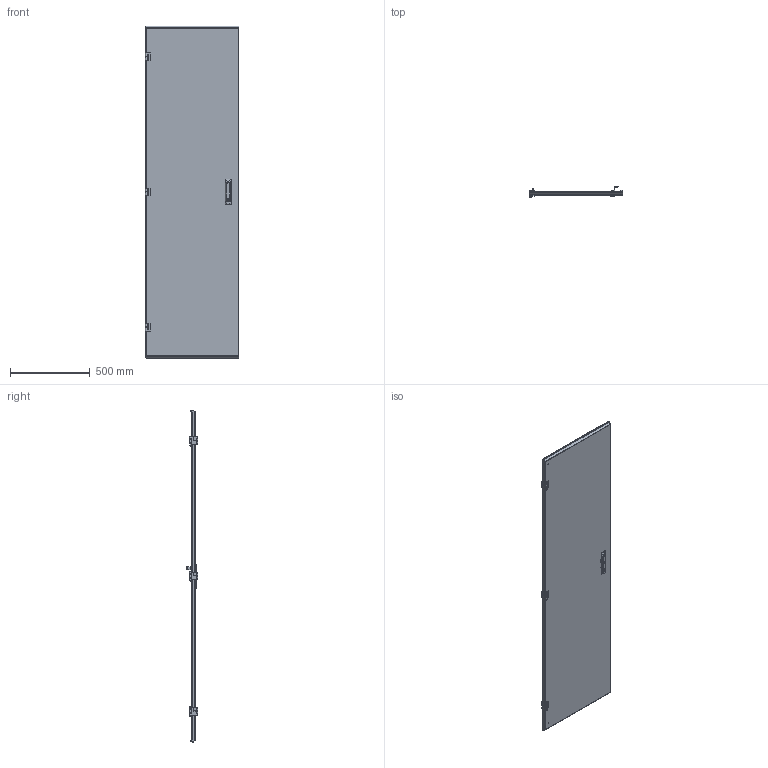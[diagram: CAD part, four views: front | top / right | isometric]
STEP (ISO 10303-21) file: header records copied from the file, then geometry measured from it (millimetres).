
FILE_DESCRIPTION(/* description */ ('Unknown'),/* implementation_level */ '2;1');
FILE_NAME(/* name */ 'C4D2477SBK1',/* time_stamp */ '2026-03-20T15:40:59-04:00',/* author */ ('Unknown'),/* organization */ ('Unknown'),/* preprocessor_version */ 'ST-DEVELOPER v18.104',/* originating_system */ 'Solid Edge',/* authorisation */ 'Unknown');
FILE_SCHEMA (('AUTOMOTIVE_DESIGN {1 0 10303 214 3 1 1}'));
Products named in the file (14): C4D2477S; BMP01631; COM57694-23; std26020; HNG14604; HNG14604-3; HNG14604-2; HNG14604-1; HNG14604-1A; HNG14604-1B; HNG14604-1C; LOC88025; COM57701
Assembly tree (19 placements, depth 4):
  C4D2477S
    BMP01631  x3
    COM57694-23
      COM57694-23
      std26020  x2
    HNG14604  x3
      HNG14604-3
      HNG14604-2
      HNG14604-1
        HNG14604-1A
        HNG14604-1B
        HNG14604-1C
    LOC88025
    COM57701
Bounding box: 588.32 x 70.33 x 2084.39 mm (x, y, z)
Volume: 2147480.9 mm3; surface area: 2859221.5 mm2
Topology: 34 solids, 34 shells, 4256 faces, 10956 edges, 7010 vertices
Faces by surface type: plane 2666, cylinder 932, bspline 340, torus 131, sphere 113, cone 74
Full cylindrical faces by diameter (mm): 3.1 x3, 4.2 x2, 4.297 x3, 4.641 x1, 4.775 x2, 4.8 x1, 5 x3, 5.2 x1, 5.5 x2, 6 x9, 6.02 x3, 6.1 x3, 6.2 x12, 6.35 x2, 6.5 x1, 6.6 x1, 9.3 x1, 9.95 x12, 10 x3, 10.312 x6, 11 x1, 11.05 x1, 11.9 x1, 12 x6, 12.05 x1, 13.5 x1, 16.1 x1, 16.7 x1, 16.8 x1, 16.9 x1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
Entity records: 109781 total; most frequent: CARTESIAN_POINT 37231, ORIENTED_EDGE 15802, DIRECTION 13607, EDGE_CURVE 7901, VERTEX_POINT 5085, LINE 4671, VECTOR 4671, AXIS2_PLACEMENT_3D 4468
